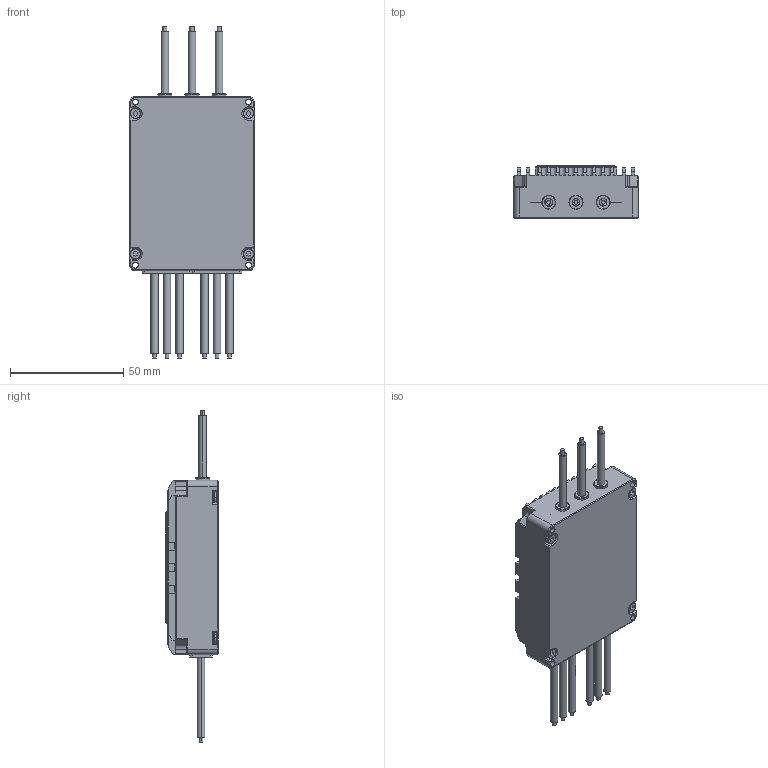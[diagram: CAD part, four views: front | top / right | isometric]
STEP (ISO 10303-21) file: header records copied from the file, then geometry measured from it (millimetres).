
FILE_DESCRIPTION((''),'2;1');
FILE_NAME('DK_2','2023-03-03T10:02:28',('22429'),(''),'CREO PARAMETRIC BY PTC INC, 2021063','CREO PARAMETRIC BY PTC INC, 2021063','');
FILE_SCHEMA(('CONFIG_CONTROL_DESIGN'));
Products named in the file (1): DK_2
Bounding box: 55 x 23.3 x 146.6 mm (x, y, z)
Volume: 28612.6 mm3; surface area: 36615.1 mm2
Topology: 2 solids, 16 shells, 1905 faces, 4928 edges, 3222 vertices
Faces by surface type: plane 1272, cylinder 431, cone 136, bspline 60, torus 6
Entity records: 79271 total; most frequent: CARTESIAN_POINT 32612, ORIENTED_EDGE 9840, DIRECTION 9306, EDGE_CURVE 4920, VECTOR 3440, LINE 3440, VERTEX_POINT 3222, AXIS2_PLACEMENT_3D 2933
